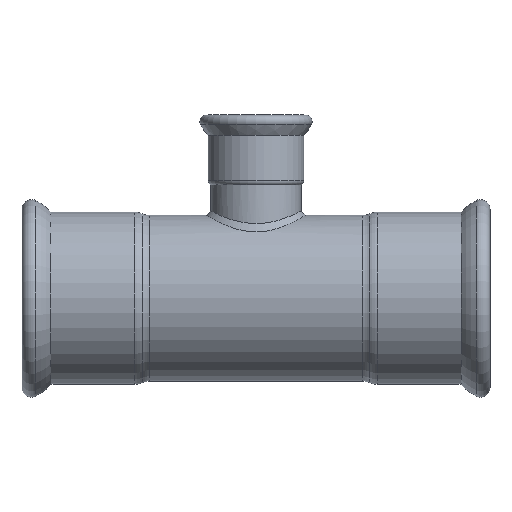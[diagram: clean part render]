
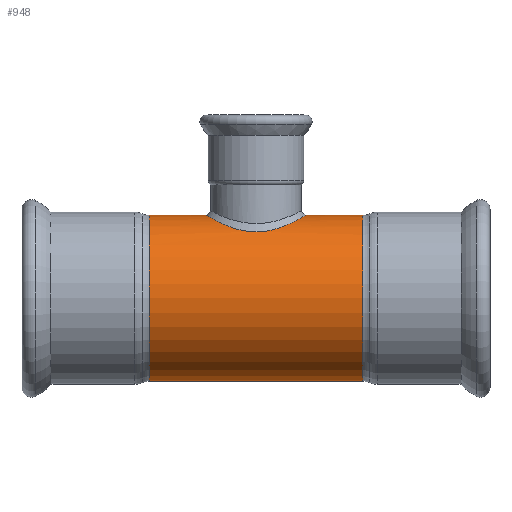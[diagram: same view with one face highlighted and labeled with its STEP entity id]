
A CAD part, front view. The second image highlights one B-rep face of the part: STEP entity #948.
In plain terms, the highlighted cylindrical face has radius 69.85 mm (diameter 139.7 mm), a full revolution.
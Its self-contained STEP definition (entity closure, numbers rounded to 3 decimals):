
#16=FACE_BOUND('',#143,.T.);
#23=B_SPLINE_CURVE_WITH_KNOTS('',3,(#1854,#1855,#1856,#1857,#1858,#1859,
#1860,#1861,#1862,#1863,#1864,#1865,#1866,#1867,#1868,#1869,#1870,#1871,
#1872,#1873,#1874,#1875,#1876,#1877,#1878,#1879,#1880,#1881,#1882,#1883,
#1884,#1885,#1886,#1887,#1888,#1889,#1890,#1891,#1892,#1893,#1894,#1895,
#1896,#1897,#1898,#1899,#1900,#1901,#1902,#1903,#1904,#1905,#1906,#1907,
#1908,#1909,#1910),.UNSPECIFIED.,.F.,.F.,(4,1,1,2,2,1,1,2,2,2,1,2,2,1,1,
2,1,2,2,1,2,2,1,2,1,1,2,2,1,2,2,2,1,1,2,4),(-0.954,-0.943,
-0.931,-0.909,-0.861,-0.837,
-0.829,-0.814,-0.765,-0.717,
-0.693,-0.669,-0.619,-0.596,
-0.584,-0.572,-0.56,-0.525,
-0.477,-0.454,-0.431,-0.384,
-0.348,-0.336,-0.325,-0.313,
-0.289,-0.24,-0.216,-0.192,
-0.143,-0.095,-0.08,-0.071,
-0.048,0.),.UNSPECIFIED.);
#24=B_SPLINE_CURVE_WITH_KNOTS('',3,(#1911,#1912,#1913,#1914,#1915,#1916,
#1917),.UNSPECIFIED.,.F.,.F.,(4,3,4),(0.,0.023,0.046),
 .UNSPECIFIED.);
#96=FACE_OUTER_BOUND('',#142,.T.);
#142=EDGE_LOOP('',(#836,#837,#838,#839,#840,#841,#842,#843));
#143=EDGE_LOOP('',(#844,#845));
#170=LINE('',#2604,#191);
#191=VECTOR('',#1441,69.85);
#270=CIRCLE('',#1074,69.85);
#271=CIRCLE('',#1075,69.85);
#272=CIRCLE('',#1076,69.85);
#299=CIRCLE('',#1113,69.85);
#300=CIRCLE('',#1114,69.85);
#301=CIRCLE('',#1115,69.85);
#356=VERTEX_POINT('',#1852);
#357=VERTEX_POINT('',#1853);
#391=VERTEX_POINT('',#2531);
#392=VERTEX_POINT('',#2533);
#393=VERTEX_POINT('',#2535);
#414=VERTEX_POINT('',#2596);
#415=VERTEX_POINT('',#2598);
#416=VERTEX_POINT('',#2600);
#479=EDGE_CURVE('',#356,#357,#23,.T.);
#480=EDGE_CURVE('',#357,#356,#24,.T.);
#530=EDGE_CURVE('',#391,#392,#270,.T.);
#531=EDGE_CURVE('',#392,#393,#271,.T.);
#532=EDGE_CURVE('',#393,#391,#272,.T.);
#562=EDGE_CURVE('',#415,#414,#299,.T.);
#563=EDGE_CURVE('',#416,#415,#300,.T.);
#564=EDGE_CURVE('',#414,#416,#301,.T.);
#565=EDGE_CURVE('',#392,#416,#170,.T.);
#836=ORIENTED_EDGE('',*,*,#532,.F.);
#837=ORIENTED_EDGE('',*,*,#531,.F.);
#838=ORIENTED_EDGE('',*,*,#565,.T.);
#839=ORIENTED_EDGE('',*,*,#563,.T.);
#840=ORIENTED_EDGE('',*,*,#562,.T.);
#841=ORIENTED_EDGE('',*,*,#564,.T.);
#842=ORIENTED_EDGE('',*,*,#565,.F.);
#843=ORIENTED_EDGE('',*,*,#530,.F.);
#844=ORIENTED_EDGE('',*,*,#479,.T.);
#845=ORIENTED_EDGE('',*,*,#480,.T.);
#907=CYLINDRICAL_SURFACE('',#1116,69.85);
#948=ADVANCED_FACE('',(#96,#16),#907,.T.);
#1074=AXIS2_PLACEMENT_3D('',#2534,#1352,#1353);
#1075=AXIS2_PLACEMENT_3D('',#2536,#1354,#1355);
#1076=AXIS2_PLACEMENT_3D('',#2537,#1356,#1357);
#1113=AXIS2_PLACEMENT_3D('',#2599,#1433,#1434);
#1114=AXIS2_PLACEMENT_3D('',#2601,#1435,#1436);
#1115=AXIS2_PLACEMENT_3D('',#2602,#1437,#1438);
#1116=AXIS2_PLACEMENT_3D('',#2603,#1439,#1440);
#1352=DIRECTION('center_axis',(-1.,0.,0.));
#1353=DIRECTION('ref_axis',(0.,0.,
-1.));
#1354=DIRECTION('center_axis',(-1.,0.,0.));
#1355=DIRECTION('ref_axis',(0.,0.,
-1.));
#1356=DIRECTION('center_axis',(-1.,0.,0.));
#1357=DIRECTION('ref_axis',(0.,0.,
-1.));
#1433=DIRECTION('center_axis',(-1.,0.,0.));
#1434=DIRECTION('ref_axis',(0.,0.,
-1.));
#1435=DIRECTION('center_axis',(-1.,0.,0.));
#1436=DIRECTION('ref_axis',(0.,0.,
-1.));
#1437=DIRECTION('center_axis',(-1.,0.,0.));
#1438=DIRECTION('ref_axis',(0.,0.,
-1.));
#1439=DIRECTION('center_axis',(-1.,0.,0.));
#1440=DIRECTION('ref_axis',(0.,1.,0.));
#1441=DIRECTION('',(1.,0.,0.));
#1852=CARTESIAN_POINT('',(0.,-41.751,55.999));
#1853=CARTESIAN_POINT('',(12.763,-39.752,57.435));
#1854=CARTESIAN_POINT('Ctrl Pts',(-0.001,-41.751,
55.999));
#1855=CARTESIAN_POINT('Ctrl Pts',(-1.103,-41.751,55.998));
#1856=CARTESIAN_POINT('Ctrl Pts',(-3.298,-41.664,56.064));
#1857=CARTESIAN_POINT('Ctrl Pts',(-7.698,-41.14,56.452));
#1858=CARTESIAN_POINT('Ctrl Pts',(-10.826,-40.374,57.005));
#1859=CARTESIAN_POINT('Ctrl Pts',(-16.813,-38.455,58.334));
#1860=CARTESIAN_POINT('Ctrl Pts',(-20.638,-36.528,59.6));
#1861=CARTESIAN_POINT('Ctrl Pts',(-25.664,-32.996,61.581));
#1862=CARTESIAN_POINT('Ctrl Pts',(-27.838,-31.209,62.518));
#1863=CARTESIAN_POINT('Ctrl Pts',(-30.593,-28.461,63.803));
#1864=CARTESIAN_POINT('Ctrl Pts',(-31.882,-26.984,64.435));
#1865=CARTESIAN_POINT('Ctrl Pts',(-35.136,-22.91,66.075));
#1866=CARTESIAN_POINT('Ctrl Pts',(-37.271,-19.281,67.256));
#1867=CARTESIAN_POINT('Ctrl Pts',(-40.367,-11.472,69.021));
#1868=CARTESIAN_POINT('Ctrl Pts',(-41.333,-7.243,69.602));
#1869=CARTESIAN_POINT('Ctrl Pts',(-41.786,-1.061,69.871));
#1870=CARTESIAN_POINT('Ctrl Pts',(-41.799,3.086,69.879));
#1871=CARTESIAN_POINT('Ctrl Pts',(-41.156,7.328,69.495));
#1872=CARTESIAN_POINT('Ctrl Pts',(-39.753,13.438,68.671));
#1873=CARTESIAN_POINT('Ctrl Pts',(-38.17,17.425,67.748));
#1874=CARTESIAN_POINT('Ctrl Pts',(-35.072,22.741,66.07));
#1875=CARTESIAN_POINT('Ctrl Pts',(-33.341,25.273,65.157));
#1876=CARTESIAN_POINT('Ctrl Pts',(-30.723,28.322,63.865));
#1877=CARTESIAN_POINT('Ctrl Pts',(-29.363,29.697,63.227));
#1878=CARTESIAN_POINT('Ctrl Pts',(-27.947,31.033,62.582));
#1879=CARTESIAN_POINT('Ctrl Pts',(-24.973,33.658,61.263));
#1880=CARTESIAN_POINT('Ctrl Pts',(-21.473,35.94,59.918));
#1881=CARTESIAN_POINT('Ctrl Pts',(-14.957,39.21,57.848));
#1882=CARTESIAN_POINT('Ctrl Pts',(-10.693,40.593,56.849));
#1883=CARTESIAN_POINT('Ctrl Pts',(-4.384,41.572,56.133));
#1884=CARTESIAN_POINT('Ctrl Pts',(0.,41.931,
55.864));
#1885=CARTESIAN_POINT('Ctrl Pts',(4.384,41.572,56.133));
#1886=CARTESIAN_POINT('Ctrl Pts',(10.693,40.593,56.849));
#1887=CARTESIAN_POINT('Ctrl Pts',(14.957,39.21,57.848));
#1888=CARTESIAN_POINT('Ctrl Pts',(21.473,35.94,59.918));
#1889=CARTESIAN_POINT('Ctrl Pts',(24.973,33.658,61.263));
#1890=CARTESIAN_POINT('Ctrl Pts',(27.947,31.033,62.582));
#1891=CARTESIAN_POINT('Ctrl Pts',(29.363,29.697,63.227));
#1892=CARTESIAN_POINT('Ctrl Pts',(30.723,28.322,63.865));
#1893=CARTESIAN_POINT('Ctrl Pts',(33.341,25.273,65.157));
#1894=CARTESIAN_POINT('Ctrl Pts',(35.072,22.741,66.07));
#1895=CARTESIAN_POINT('Ctrl Pts',(38.17,17.425,67.748));
#1896=CARTESIAN_POINT('Ctrl Pts',(39.753,13.438,68.671));
#1897=CARTESIAN_POINT('Ctrl Pts',(41.156,7.328,69.495));
#1898=CARTESIAN_POINT('Ctrl Pts',(41.799,3.086,69.879));
#1899=CARTESIAN_POINT('Ctrl Pts',(41.786,-1.061,69.871));
#1900=CARTESIAN_POINT('Ctrl Pts',(41.333,-7.243,69.602));
#1901=CARTESIAN_POINT('Ctrl Pts',(40.367,-11.472,69.021));
#1902=CARTESIAN_POINT('Ctrl Pts',(37.271,-19.281,67.256));
#1903=CARTESIAN_POINT('Ctrl Pts',(35.136,-22.91,66.075));
#1904=CARTESIAN_POINT('Ctrl Pts',(31.882,-26.984,64.435));
#1905=CARTESIAN_POINT('Ctrl Pts',(30.593,-28.461,63.803));
#1906=CARTESIAN_POINT('Ctrl Pts',(27.838,-31.209,62.518));
#1907=CARTESIAN_POINT('Ctrl Pts',(25.664,-32.995,61.581));
#1908=CARTESIAN_POINT('Ctrl Pts',(20.638,-36.527,59.6));
#1909=CARTESIAN_POINT('Ctrl Pts',(16.812,-38.452,58.335));
#1910=CARTESIAN_POINT('Ctrl Pts',(12.763,-39.752,57.435));
#1911=CARTESIAN_POINT('Ctrl Pts',(12.763,-39.752,57.435));
#1912=CARTESIAN_POINT('Ctrl Pts',(10.828,-40.374,57.005));
#1913=CARTESIAN_POINT('Ctrl Pts',(8.731,-40.885,56.635));
#1914=CARTESIAN_POINT('Ctrl Pts',(6.574,-41.23,56.384));
#1915=CARTESIAN_POINT('Ctrl Pts',(4.418,-41.574,56.132));
#1916=CARTESIAN_POINT('Ctrl Pts',(2.201,-41.751,55.999));
#1917=CARTESIAN_POINT('Ctrl Pts',(-0.001,-41.751,
55.999));
#2531=CARTESIAN_POINT('',(-89.672,0.,-69.85));
#2533=CARTESIAN_POINT('',(-89.672,-69.85,0.));
#2534=CARTESIAN_POINT('Origin',(-89.672,0.,
0.));
#2535=CARTESIAN_POINT('',(-89.672,69.85,0.));
#2536=CARTESIAN_POINT('Origin',(-89.672,0.,
0.));
#2537=CARTESIAN_POINT('Origin',(-89.672,0.,
0.));
#2596=CARTESIAN_POINT('',(89.672,0.,-69.85));
#2598=CARTESIAN_POINT('',(89.672,69.85,0.));
#2599=CARTESIAN_POINT('Origin',(89.672,0.,0.));
#2600=CARTESIAN_POINT('',(89.672,-69.85,0.));
#2601=CARTESIAN_POINT('Origin',(89.672,0.,0.));
#2602=CARTESIAN_POINT('Origin',(89.672,0.,0.));
#2603=CARTESIAN_POINT('Origin',(79.836,0.,0.));
#2604=CARTESIAN_POINT('',(79.836,-69.85,0.));
